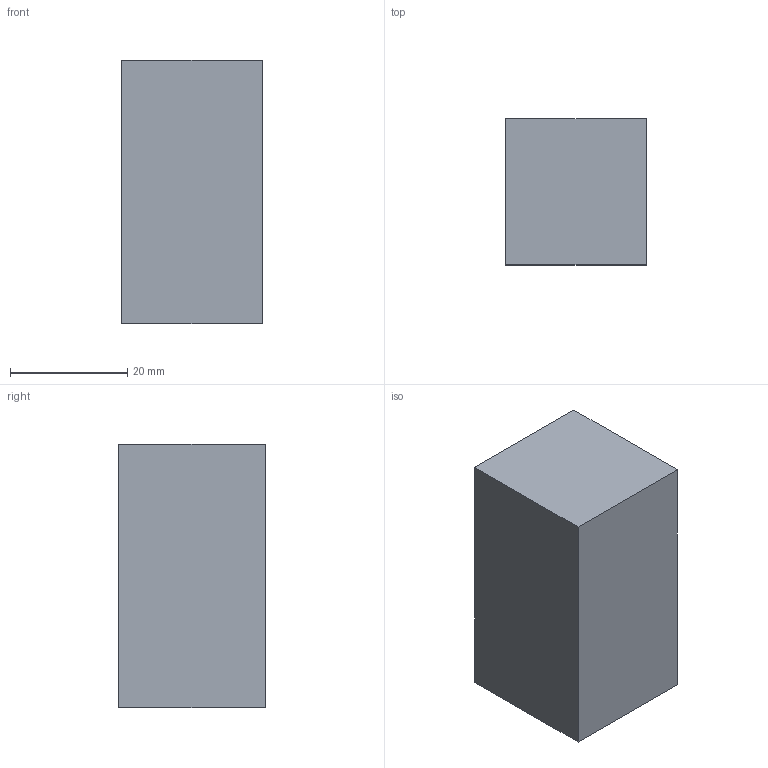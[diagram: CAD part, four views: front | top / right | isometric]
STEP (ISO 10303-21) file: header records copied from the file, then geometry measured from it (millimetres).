
FILE_DESCRIPTION(('Open CASCADE Model'),'2;1');
FILE_NAME('Open CASCADE Shape Model','2026-10-04T01:02:29',('Author'),( 'Open CASCADE'),'Open CASCADE STEP processor 8.0','Open CASCADE 8.0' ,'Unknown');
FILE_SCHEMA(('AUTOMOTIVE_DESIGN { 1 0 10303 214 1 1 1 1 }'));
Length unit declared in the file: millimetre
Products named in the file (1): Open CASCADE STEP translator 8.0 170
Bounding box: 24 x 25 x 45 mm (x, y, z)
Volume: 27000 mm3; surface area: 5610 mm2
Topology: 1 solids, 1 shells, 6 faces, 12 edges, 8 vertices
Faces by surface type: plane 6
Entity records: 322 total; most frequent: CARTESIAN_POINT 51, DIRECTION 50, LINE 36, VECTOR 36, ORIENTED_EDGE 24, PCURVE 24, DEFINITIONAL_REPRESENTATION 24, EDGE_CURVE 12
